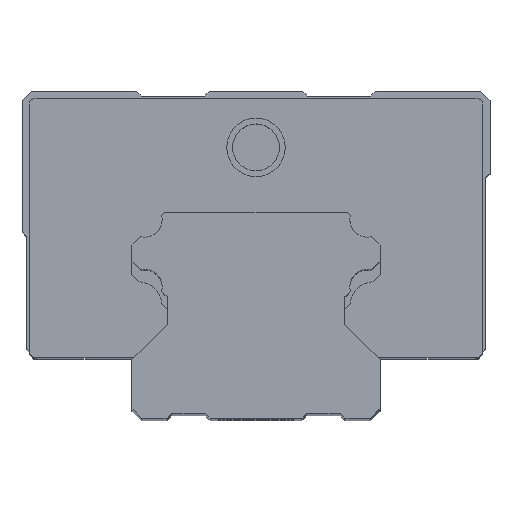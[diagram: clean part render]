
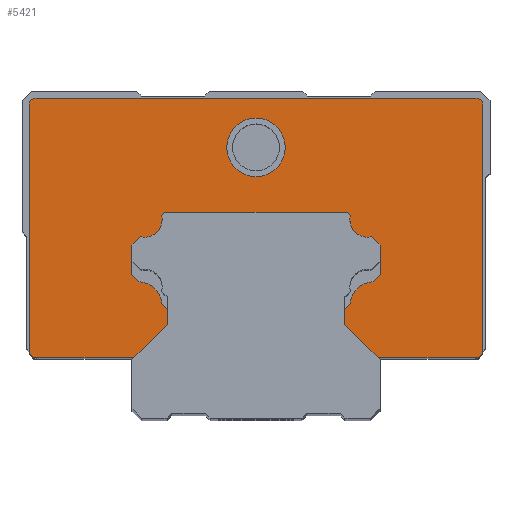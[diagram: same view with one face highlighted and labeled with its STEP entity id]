
A CAD part, top view. The second image highlights one B-rep face of the part: STEP entity #5421.
In plain terms, the highlighted planar face has unit normal (0, 0, 1).
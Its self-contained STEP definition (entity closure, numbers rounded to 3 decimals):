
#2689=DIRECTION('',(1.,0.,0.));
#2690=VECTOR('',#2689,23.);
#2691=CARTESIAN_POINT('',(-47.5,-37.37,142.2));
#2692=LINE('',#2691,#2690);
#2693=DIRECTION('',(0.707,-0.707,0.));
#2694=VECTOR('',#2693,1.414);
#2695=CARTESIAN_POINT('',(-48.5,-36.37,142.2));
#2696=LINE('',#2695,#2694);
#2697=DIRECTION('',(0.,-1.,0.));
#2698=VECTOR('',#2697,53.);
#2699=CARTESIAN_POINT('',(-48.5,16.63,142.2));
#2700=LINE('',#2699,#2698);
#2701=CARTESIAN_POINT('',(-47.,16.63,142.2));
#2702=DIRECTION('',(0.,0.,1.));
#2703=DIRECTION('',(0.,1.,0.));
#2704=AXIS2_PLACEMENT_3D('',#2701,#2702,#2703);
#2706=DIRECTION('',(-1.,0.,0.));
#2707=VECTOR('',#2706,94.);
#2708=CARTESIAN_POINT('',(47.,18.13,142.2));
#2709=LINE('',#2708,#2707);
#2710=CARTESIAN_POINT('',(47.,16.63,142.2));
#2711=DIRECTION('',(0.,0.,1.));
#2712=DIRECTION('',(1.,0.,0.));
#2713=AXIS2_PLACEMENT_3D('',#2710,#2711,#2712);
#2715=DIRECTION('',(0.,1.,0.));
#2716=VECTOR('',#2715,53.);
#2717=CARTESIAN_POINT('',(48.5,-36.37,142.2));
#2718=LINE('',#2717,#2716);
#2719=DIRECTION('',(0.707,0.707,0.));
#2720=VECTOR('',#2719,1.414);
#2721=CARTESIAN_POINT('',(47.5,-37.37,142.2));
#2722=LINE('',#2721,#2720);
#2723=DIRECTION('',(1.,0.,0.));
#2724=VECTOR('',#2723,23.);
#2725=CARTESIAN_POINT('',(24.5,-37.37,142.2));
#2726=LINE('',#2725,#2724);
#2727=DIRECTION('',(0.707,-0.707,0.));
#2728=VECTOR('',#2727,8.415);
#2729=CARTESIAN_POINT('',(18.55,-31.42,142.2));
#2730=LINE('',#2729,#2728);
#2731=DIRECTION('',(0.,-1.,0.));
#2732=VECTOR('',#2731,3.9);
#2733=CARTESIAN_POINT('',(18.55,-27.52,142.2));
#2734=LINE('',#2733,#2732);
#2735=DIRECTION('',(-0.707,-0.707,0.));
#2736=VECTOR('',#2735,2.116);
#2737=CARTESIAN_POINT('',(20.046,-26.024,142.2));
#2738=LINE('',#2737,#2736);
#2739=CARTESIAN_POINT('',(25.336,-26.356,142.2));
#2740=DIRECTION('',(0.,0.,1.));
#2741=DIRECTION('',(-0.063,0.998,0.));
#2742=AXIS2_PLACEMENT_3D('',#2739,#2740,#2741);
#2744=DIRECTION('',(-0.707,-0.707,0.));
#2745=VECTOR('',#2744,2.116);
#2746=CARTESIAN_POINT('',(26.5,-19.57,142.2));
#2747=LINE('',#2746,#2745);
#2748=DIRECTION('',(0.,-1.,0.));
#2749=VECTOR('',#2748,5.25);
#2750=CARTESIAN_POINT('',(26.5,-14.32,142.2));
#2751=LINE('',#2750,#2749);
#2752=DIRECTION('',(0.707,-0.707,0.));
#2753=VECTOR('',#2752,2.116);
#2754=CARTESIAN_POINT('',(25.004,-12.824,142.2));
#2755=LINE('',#2754,#2753);
#2756=CARTESIAN_POINT('',(25.336,-7.534,142.2));
#2757=DIRECTION('',(0.,0.,1.));
#2758=DIRECTION('',(-0.998,-0.063,0.));
#2759=AXIS2_PLACEMENT_3D('',#2756,#2757,#2758);
#2761=DIRECTION('',(0.707,-0.707,0.));
#2762=VECTOR('',#2761,2.116);
#2763=CARTESIAN_POINT('',(18.55,-6.37,142.2));
#2764=LINE('',#2763,#2762);
#2765=DIRECTION('',(1.,0.,0.));
#2766=VECTOR('',#2765,37.1);
#2767=CARTESIAN_POINT('',(-18.55,-6.37,142.2));
#2768=LINE('',#2767,#2766);
#2769=DIRECTION('',(0.707,0.707,0.));
#2770=VECTOR('',#2769,2.116);
#2771=CARTESIAN_POINT('',(-20.046,-7.866,142.2));
#2772=LINE('',#2771,#2770);
#2773=CARTESIAN_POINT('',(-25.336,-7.534,142.2));
#2774=DIRECTION('',(0.,0.,1.));
#2775=DIRECTION('',(0.063,-0.998,0.));
#2776=AXIS2_PLACEMENT_3D('',#2773,#2774,#2775);
#2778=DIRECTION('',(0.707,0.707,0.));
#2779=VECTOR('',#2778,2.116);
#2780=CARTESIAN_POINT('',(-26.5,-14.32,142.2));
#2781=LINE('',#2780,#2779);
#2782=DIRECTION('',(0.,1.,0.));
#2783=VECTOR('',#2782,5.25);
#2784=CARTESIAN_POINT('',(-26.5,-19.57,142.2));
#2785=LINE('',#2784,#2783);
#2786=DIRECTION('',(-0.707,0.707,0.));
#2787=VECTOR('',#2786,2.116);
#2788=CARTESIAN_POINT('',(-25.004,-21.066,142.2));
#2789=LINE('',#2788,#2787);
#2790=CARTESIAN_POINT('',(-25.336,-26.356,142.2));
#2791=DIRECTION('',(0.,0.,1.));
#2792=DIRECTION('',(0.998,0.063,0.));
#2793=AXIS2_PLACEMENT_3D('',#2790,#2791,#2792);
#2795=DIRECTION('',(-0.707,0.707,0.));
#2796=VECTOR('',#2795,2.116);
#2797=CARTESIAN_POINT('',(-18.55,-27.52,142.2));
#2798=LINE('',#2797,#2796);
#2799=DIRECTION('',(0.,1.,0.));
#2800=VECTOR('',#2799,3.9);
#2801=CARTESIAN_POINT('',(-18.55,-31.42,142.2));
#2802=LINE('',#2801,#2800);
#2803=DIRECTION('',(0.707,0.707,0.));
#2804=VECTOR('',#2803,8.415);
#2805=CARTESIAN_POINT('',(-24.5,-37.37,142.2));
#2806=LINE('',#2805,#2804);
#2807=CARTESIAN_POINT('',(0.,7.63,142.2));
#2808=DIRECTION('',(0.,0.,1.));
#2809=DIRECTION('',(1.,0.,0.));
#2810=AXIS2_PLACEMENT_3D('',#2807,#2808,#2809);
#2812=CARTESIAN_POINT('',(0.,7.63,142.2));
#2813=DIRECTION('',(0.,0.,1.));
#2814=DIRECTION('',(-1.,0.,0.));
#2815=AXIS2_PLACEMENT_3D('',#2812,#2813,#2814);
#3508=CARTESIAN_POINT('',(-47.5,-37.37,142.2));
#3509=CARTESIAN_POINT('',(-24.5,-37.37,142.2));
#3510=VERTEX_POINT('',#3508);
#3511=VERTEX_POINT('',#3509);
#3512=CARTESIAN_POINT('',(-18.55,-31.42,142.2));
#3513=VERTEX_POINT('',#3512);
#3514=CARTESIAN_POINT('',(-18.55,-27.52,142.2));
#3515=VERTEX_POINT('',#3514);
#3516=CARTESIAN_POINT('',(-20.046,-26.024,142.2));
#3517=VERTEX_POINT('',#3516);
#3518=CARTESIAN_POINT('',(-25.004,-21.066,142.2));
#3519=VERTEX_POINT('',#3518);
#3520=CARTESIAN_POINT('',(-26.5,-19.57,142.2));
#3521=VERTEX_POINT('',#3520);
#3522=CARTESIAN_POINT('',(-26.5,-14.32,142.2));
#3523=VERTEX_POINT('',#3522);
#3524=CARTESIAN_POINT('',(-25.004,-12.824,142.2));
#3525=VERTEX_POINT('',#3524);
#3526=CARTESIAN_POINT('',(-20.046,-7.866,142.2));
#3527=VERTEX_POINT('',#3526);
#3528=CARTESIAN_POINT('',(-18.55,-6.37,142.2));
#3529=VERTEX_POINT('',#3528);
#3530=CARTESIAN_POINT('',(18.55,-6.37,142.2));
#3531=VERTEX_POINT('',#3530);
#3532=CARTESIAN_POINT('',(20.046,-7.866,142.2));
#3533=VERTEX_POINT('',#3532);
#3534=CARTESIAN_POINT('',(25.004,-12.824,142.2));
#3535=VERTEX_POINT('',#3534);
#3536=CARTESIAN_POINT('',(26.5,-14.32,142.2));
#3537=VERTEX_POINT('',#3536);
#3538=CARTESIAN_POINT('',(26.5,-19.57,142.2));
#3539=VERTEX_POINT('',#3538);
#3540=CARTESIAN_POINT('',(25.004,-21.066,142.2));
#3541=VERTEX_POINT('',#3540);
#3542=CARTESIAN_POINT('',(20.046,-26.024,142.2));
#3543=VERTEX_POINT('',#3542);
#3544=CARTESIAN_POINT('',(18.55,-27.52,142.2));
#3545=VERTEX_POINT('',#3544);
#3546=CARTESIAN_POINT('',(18.55,-31.42,142.2));
#3547=VERTEX_POINT('',#3546);
#3548=CARTESIAN_POINT('',(24.5,-37.37,142.2));
#3549=VERTEX_POINT('',#3548);
#3550=CARTESIAN_POINT('',(47.5,-37.37,142.2));
#3551=VERTEX_POINT('',#3550);
#3552=CARTESIAN_POINT('',(48.5,-36.37,142.2));
#3553=VERTEX_POINT('',#3552);
#3554=CARTESIAN_POINT('',(48.5,16.63,142.2));
#3555=VERTEX_POINT('',#3554);
#3556=CARTESIAN_POINT('',(47.,18.13,142.2));
#3557=VERTEX_POINT('',#3556);
#3558=CARTESIAN_POINT('',(-47.,18.13,142.2));
#3559=VERTEX_POINT('',#3558);
#3560=CARTESIAN_POINT('',(-48.5,16.63,142.2));
#3561=VERTEX_POINT('',#3560);
#3562=CARTESIAN_POINT('',(-48.5,-36.37,142.2));
#3563=VERTEX_POINT('',#3562);
#3600=CARTESIAN_POINT('',(6.25,7.63,142.2));
#3601=CARTESIAN_POINT('',(-6.25,7.63,142.2));
#3602=VERTEX_POINT('',#3600);
#3603=VERTEX_POINT('',#3601);
#5361=CARTESIAN_POINT('',(-50.,29.63,142.2));
#5362=DIRECTION('',(0.,0.,1.));
#5363=DIRECTION('',(1.,0.,0.));
#5364=AXIS2_PLACEMENT_3D('',#5361,#5362,#5363);
#5365=PLANE('',#5364);
#5366=ORIENTED_EDGE('',*,*,#4927,.F.);
#5368=ORIENTED_EDGE('',*,*,#5367,.F.);
#5370=ORIENTED_EDGE('',*,*,#5369,.F.);
#5372=ORIENTED_EDGE('',*,*,#5371,.F.);
#5374=ORIENTED_EDGE('',*,*,#5373,.F.);
#5376=ORIENTED_EDGE('',*,*,#5375,.F.);
#5378=ORIENTED_EDGE('',*,*,#5377,.F.);
#5380=ORIENTED_EDGE('',*,*,#5379,.F.);
#5381=ORIENTED_EDGE('',*,*,#4394,.F.);
#5383=ORIENTED_EDGE('',*,*,#5382,.F.);
#5385=ORIENTED_EDGE('',*,*,#5384,.F.);
#5387=ORIENTED_EDGE('',*,*,#5386,.F.);
#5389=ORIENTED_EDGE('',*,*,#5388,.F.);
#5391=ORIENTED_EDGE('',*,*,#5390,.F.);
#5392=ORIENTED_EDGE('',*,*,#5191,.F.);
#5393=ORIENTED_EDGE('',*,*,#5327,.F.);
#5394=ORIENTED_EDGE('',*,*,#5341,.F.);
#5395=ORIENTED_EDGE('',*,*,#5355,.F.);
#5396=ORIENTED_EDGE('',*,*,#5123,.F.);
#5398=ORIENTED_EDGE('',*,*,#5397,.F.);
#5400=ORIENTED_EDGE('',*,*,#5399,.F.);
#5402=ORIENTED_EDGE('',*,*,#5401,.F.);
#5403=ORIENTED_EDGE('',*,*,#5057,.F.);
#5405=ORIENTED_EDGE('',*,*,#5404,.F.);
#5407=ORIENTED_EDGE('',*,*,#5406,.F.);
#5408=ORIENTED_EDGE('',*,*,#4075,.F.);
#5410=ORIENTED_EDGE('',*,*,#5409,.F.);
#5412=ORIENTED_EDGE('',*,*,#5411,.F.);
#5413=EDGE_LOOP('',(#5366,#5368,#5370,#5372,#5374,#5376,#5378,#5380,#5381,#5383,
#5385,#5387,#5389,#5391,#5392,#5393,#5394,#5395,#5396,#5398,#5400,#5402,#5403,
#5405,#5407,#5408,#5410,#5412));
#5414=FACE_OUTER_BOUND('',#5413,.F.);
#5416=ORIENTED_EDGE('',*,*,#5415,.T.);
#5418=ORIENTED_EDGE('',*,*,#5417,.T.);
#5419=EDGE_LOOP('',(#5416,#5418));
#5420=FACE_BOUND('',#5419,.F.);
#5421=ADVANCED_FACE('',(#5414,#5420),#5365,.T.);
#2705=CIRCLE('',#2704,1.5);
#2714=CIRCLE('',#2713,1.5);
#2743=CIRCLE('',#2742,5.3);
#2760=CIRCLE('',#2759,5.3);
#2777=CIRCLE('',#2776,5.3);
#2794=CIRCLE('',#2793,5.3);
#2811=CIRCLE('',#2810,6.25);
#2816=CIRCLE('',#2815,6.25);
#4075=EDGE_CURVE('',#3515,#3517,#2798,.T.);
#4394=EDGE_CURVE('',#3549,#3551,#2726,.T.);
#4927=EDGE_CURVE('',#3510,#3511,#2692,.T.);
#5057=EDGE_CURVE('',#3521,#3523,#2785,.T.);
#5123=EDGE_CURVE('',#3529,#3531,#2768,.T.);
#5191=EDGE_CURVE('',#3537,#3539,#2751,.T.);
#5327=EDGE_CURVE('',#3535,#3537,#2755,.T.);
#5341=EDGE_CURVE('',#3533,#3535,#2760,.T.);
#5355=EDGE_CURVE('',#3531,#3533,#2764,.T.);
#5367=EDGE_CURVE('',#3563,#3510,#2696,.T.);
#5369=EDGE_CURVE('',#3561,#3563,#2700,.T.);
#5371=EDGE_CURVE('',#3559,#3561,#2705,.T.);
#5373=EDGE_CURVE('',#3557,#3559,#2709,.T.);
#5375=EDGE_CURVE('',#3555,#3557,#2714,.T.);
#5377=EDGE_CURVE('',#3553,#3555,#2718,.T.);
#5379=EDGE_CURVE('',#3551,#3553,#2722,.T.);
#5382=EDGE_CURVE('',#3547,#3549,#2730,.T.);
#5384=EDGE_CURVE('',#3545,#3547,#2734,.T.);
#5386=EDGE_CURVE('',#3543,#3545,#2738,.T.);
#5388=EDGE_CURVE('',#3541,#3543,#2743,.T.);
#5390=EDGE_CURVE('',#3539,#3541,#2747,.T.);
#5397=EDGE_CURVE('',#3527,#3529,#2772,.T.);
#5399=EDGE_CURVE('',#3525,#3527,#2777,.T.);
#5401=EDGE_CURVE('',#3523,#3525,#2781,.T.);
#5404=EDGE_CURVE('',#3519,#3521,#2789,.T.);
#5406=EDGE_CURVE('',#3517,#3519,#2794,.T.);
#5409=EDGE_CURVE('',#3513,#3515,#2802,.T.);
#5411=EDGE_CURVE('',#3511,#3513,#2806,.T.);
#5415=EDGE_CURVE('',#3602,#3603,#2811,.T.);
#5417=EDGE_CURVE('',#3603,#3602,#2816,.T.);
